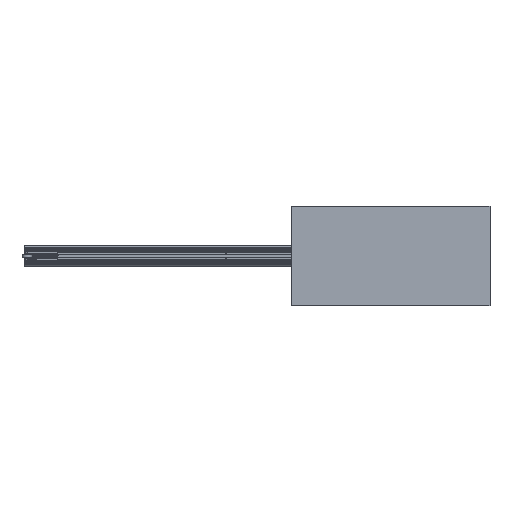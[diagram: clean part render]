
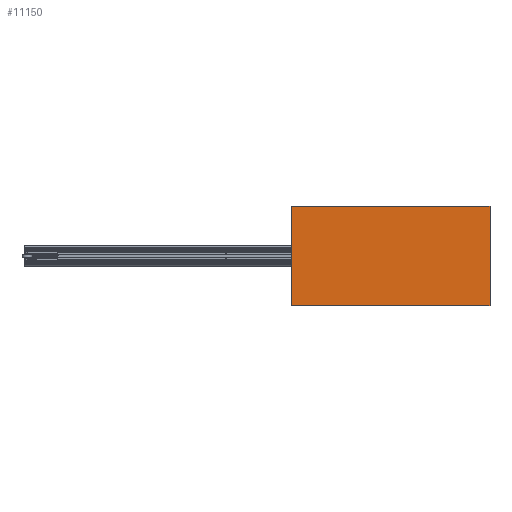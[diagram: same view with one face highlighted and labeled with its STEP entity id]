
A CAD part, front view. The second image highlights one B-rep face of the part: STEP entity #11150.
In plain terms, the highlighted planar face has unit normal (0, -1, 0).
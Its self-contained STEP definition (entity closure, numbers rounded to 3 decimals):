
#128 = DIRECTION ( 'NONE',  ( 0., 0., 1. ) ) ;
#314 = VECTOR ( 'NONE', #128, 1000. ) ;
#991 = ORIENTED_EDGE ( 'NONE', *, *, #2370, .F. ) ;
#1228 = LINE ( 'NONE', #29144, #28045 ) ;
#2370 = EDGE_CURVE ( 'NONE', #22991, #5182, #23253, .T. ) ;
#3540 = ORIENTED_EDGE ( 'NONE', *, *, #29064, .F. ) ;
#4076 = FACE_OUTER_BOUND ( 'NONE', #6719, .T. ) ;
#4384 = DIRECTION ( 'NONE',  ( 1., 0., 0. ) ) ;
#4684 = CARTESIAN_POINT ( 'NONE',  ( 0., -10., 0. ) ) ;
#5182 = VERTEX_POINT ( 'NONE', #21554 ) ;
#5645 = CARTESIAN_POINT ( 'NONE',  ( 0., -10., -600. ) ) ;
#6168 = CARTESIAN_POINT ( 'NONE',  ( 1200., -10., 0. ) ) ;
#6719 = EDGE_LOOP ( 'NONE', ( #14275, #15653, #3540, #991 ) ) ;
#8625 = DIRECTION ( 'NONE',  ( 0., 0., -1. ) ) ;
#11150 = ADVANCED_FACE ( 'NONE', ( #4076 ), #22782, .T. ) ;
#12297 = DIRECTION ( 'NONE',  ( -1., 0., 0. ) ) ;
#13254 = EDGE_CURVE ( 'NONE', #18773, #20357, #1228, .T. ) ;
#13938 = CARTESIAN_POINT ( 'NONE',  ( 0., -10., 0. ) ) ;
#14275 = ORIENTED_EDGE ( 'NONE', *, *, #17888, .F. ) ;
#15094 = CARTESIAN_POINT ( 'NONE',  ( 0., -10., 0. ) ) ;
#15653 = ORIENTED_EDGE ( 'NONE', *, *, #13254, .F. ) ;
#16976 = VECTOR ( 'NONE', #8625, 1000. ) ;
#17888 = EDGE_CURVE ( 'NONE', #20357, #22991, #26025, .T. ) ;
#18773 = VERTEX_POINT ( 'NONE', #29966 ) ;
#20357 = VERTEX_POINT ( 'NONE', #5645 ) ;
#21554 = CARTESIAN_POINT ( 'NONE',  ( 1200., -10., 0. ) ) ;
#22782 = PLANE ( 'NONE',  #23689 ) ;
#22865 = VECTOR ( 'NONE', #4384, 1000. ) ;
#22991 = VERTEX_POINT ( 'NONE', #15094 ) ;
#23253 = LINE ( 'NONE', #4684, #22865 ) ;
#23689 = AXIS2_PLACEMENT_3D ( 'NONE', #28435, #23998, #28129 ) ;
#23998 = DIRECTION ( 'NONE',  ( 0., -1., 0. ) ) ;
#26025 = LINE ( 'NONE', #13938, #314 ) ;
#28045 = VECTOR ( 'NONE', #12297, 1000. ) ;
#28129 = DIRECTION ( 'NONE',  ( 0., 0., -1. ) ) ;
#28435 = CARTESIAN_POINT ( 'NONE',  ( 0., -10., 0. ) ) ;
#29064 = EDGE_CURVE ( 'NONE', #5182, #18773, #29809, .T. ) ;
#29144 = CARTESIAN_POINT ( 'NONE',  ( 0., -10., -600. ) ) ;
#29809 = LINE ( 'NONE', #6168, #16976 ) ;
#29966 = CARTESIAN_POINT ( 'NONE',  ( 1200., -10., -600. ) ) ;
